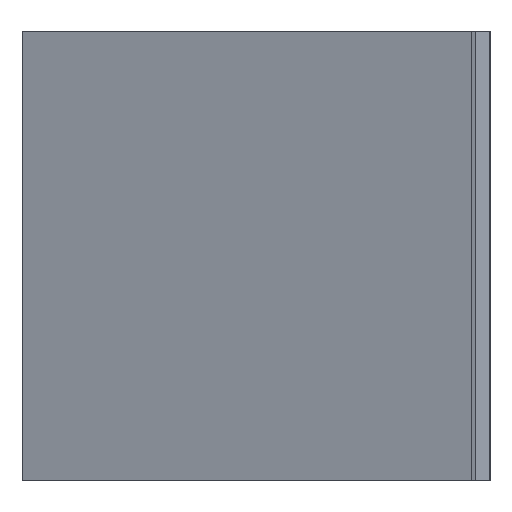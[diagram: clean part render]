
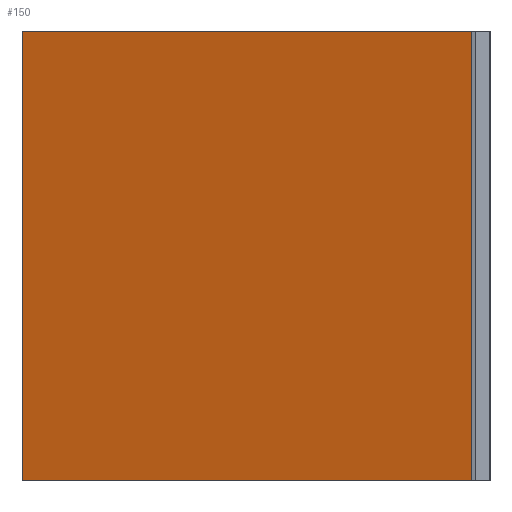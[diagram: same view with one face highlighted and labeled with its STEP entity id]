
A CAD part, left-side view. The second image highlights one B-rep face of the part: STEP entity #150.
In plain terms, the highlighted planar face has unit normal (0.952, -0.307, 0).
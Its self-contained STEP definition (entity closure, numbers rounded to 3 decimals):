
#98=CARTESIAN_POINT('Vertex',(20.,0.,0.)) ;
#101=CARTESIAN_POINT('Line Origine',(20.,0.,60.5)) ;
#105=CARTESIAN_POINT('Vertex',(20.,0.,121.)) ;
#120=CARTESIAN_POINT('Axis2P3D Location',(20.,0.,0.)) ;
#125=CARTESIAN_POINT('Line Origine',(39.5,60.5,0.)) ;
#129=CARTESIAN_POINT('Vertex',(59.,121.,0.)) ;
#132=CARTESIAN_POINT('Line Origine',(59.,121.,60.5)) ;
#136=CARTESIAN_POINT('Vertex',(59.,121.,121.)) ;
#139=CARTESIAN_POINT('Line Origine',(39.5,60.5,121.)) ;
#102=DIRECTION('Vector Direction',(0.,0.,1.)) ;
#121=DIRECTION('Axis2P3D Direction',(0.952,-0.307,0.)) ;
#122=DIRECTION('Axis2P3D XDirection',(0.307,0.952,0.)) ;
#126=DIRECTION('Vector Direction',(0.307,0.952,0.)) ;
#133=DIRECTION('Vector Direction',(0.,0.,1.)) ;
#140=DIRECTION('Vector Direction',(0.307,0.952,0.)) ;
#123=AXIS2_PLACEMENT_3D('Plane Axis2P3D',#120,#121,#122) ;
#145=ORIENTED_EDGE('',*,*,#107,.F.) ;
#146=ORIENTED_EDGE('',*,*,#131,.T.) ;
#147=ORIENTED_EDGE('',*,*,#138,.T.) ;
#148=ORIENTED_EDGE('',*,*,#143,.F.) ;
#103=VECTOR('Line Direction',#102,1.) ;
#127=VECTOR('Line Direction',#126,1.) ;
#134=VECTOR('Line Direction',#133,1.) ;
#141=VECTOR('Line Direction',#140,1.) ;
#150=ADVANCED_FACE('Extrude.1',(#149),#124,.T.) ;
#107=EDGE_CURVE('',#99,#106,#104,.T.) ;
#131=EDGE_CURVE('',#99,#130,#128,.T.) ;
#138=EDGE_CURVE('',#130,#137,#135,.T.) ;
#143=EDGE_CURVE('',#106,#137,#142,.T.) ;
#144=EDGE_LOOP('',(#145,#146,#147,#148)) ;
#149=FACE_OUTER_BOUND('',#144,.T.) ;
#104=LINE('Line',#101,#103) ;
#128=LINE('Line',#125,#127) ;
#135=LINE('Line',#132,#134) ;
#142=LINE('Line',#139,#141) ;
#124=PLANE('',#123) ;
#99=VERTEX_POINT('',#98) ;
#106=VERTEX_POINT('',#105) ;
#130=VERTEX_POINT('',#129) ;
#137=VERTEX_POINT('',#136) ;
